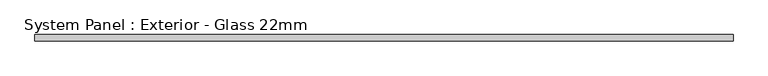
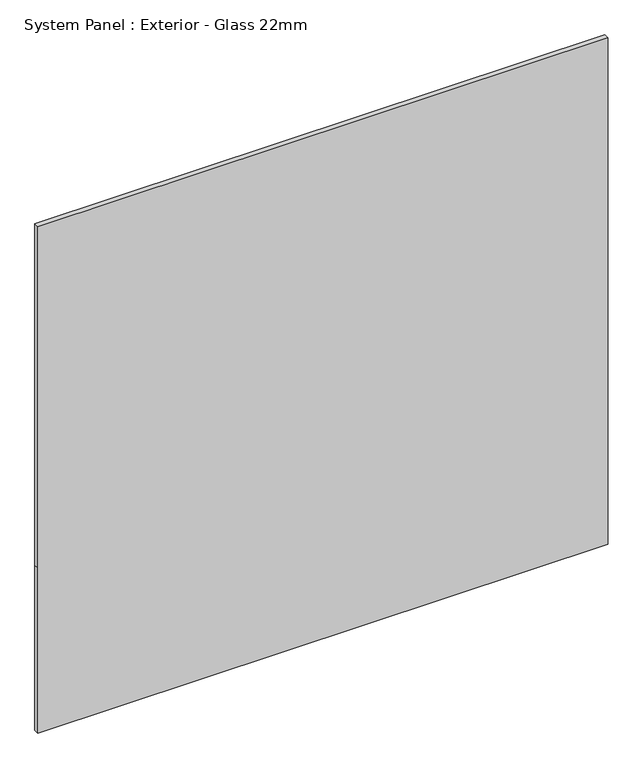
"""IFC4 building model written with IfcOpenShell, lengths in millimetres: plate geometry, System Panel : Exterior - Glass 22mm."""

from ifc_helpers import new_model, si_unit, frame, origin, place, context, project, spatial, polyline, outline, extrude, source, transform, mapped, element, save


def system_panel_exterior_glass_22mm_53e73ce7(model_context):
    return source(origin(), model_context, "Body", "SweptSolid", [
        extrude(outline(polyline([(0.0, -1225.0), (0.0, 1225.0), (750.0, 1225.0), (2300.0, 1225.0), (2300.0, -1225.0), (750.0, -1225.0), (0.0, -1225.0)])), frame((0.0, -50.0, 0.0), z_axis=(0.0, 1.0, 0.0), x_axis=(0.0, 0.0, 1.0)), (0.0, 0.0, 1.0), 22.0),
    ])


if __name__ == "__main__":
    model = new_model("IFC4")
    model_context = context("Model", 3, world=origin())
    ifc_project = project(units=[si_unit("LENGTHUNIT", "METRE", prefix="MILLI")], contexts=[model_context])
    site = spatial("IfcSite", under=ifc_project)
    building = spatial("IfcBuilding", under=site)
    placement = place(None, origin())
    system_panel_exterior_glass_22mm_shape = system_panel_exterior_glass_22mm_53e73ce7(model_context)
    element("IfcPlate", 1, ObjectType="System Panel : Exterior - Glass 22mm", at=placement, inside=building, context=model_context, shape_type="MappedRepresentation", body=[
        mapped(system_panel_exterior_glass_22mm_shape, transform((0.0, 0.0, 0.0), x_axis=(1.0, 0.0, 0.0), y_axis=(0.0, 1.0, 0.0), z_axis=(0.0, 0.0, 1.0))),
    ])
    save(model, "model.ifc")
